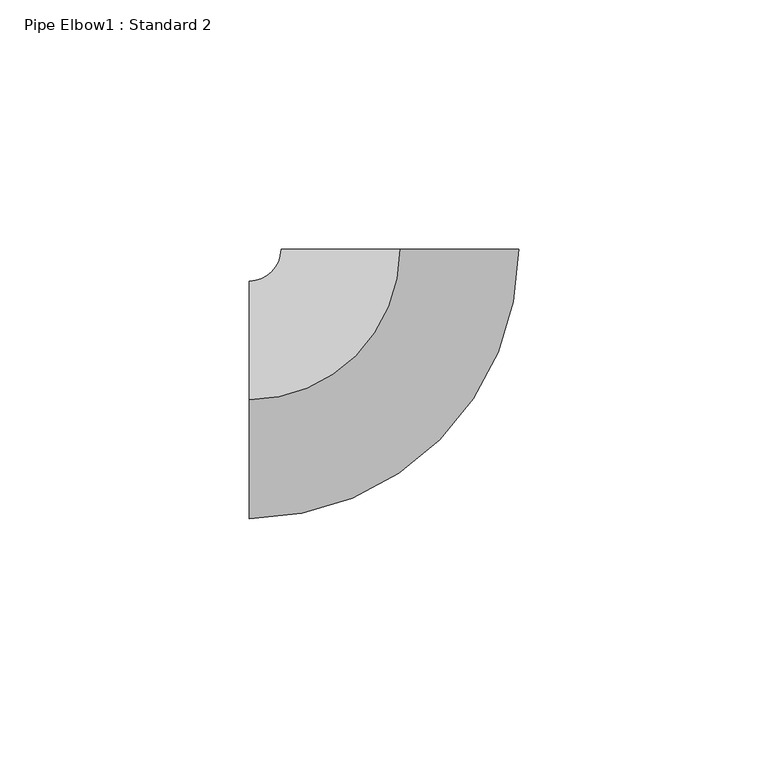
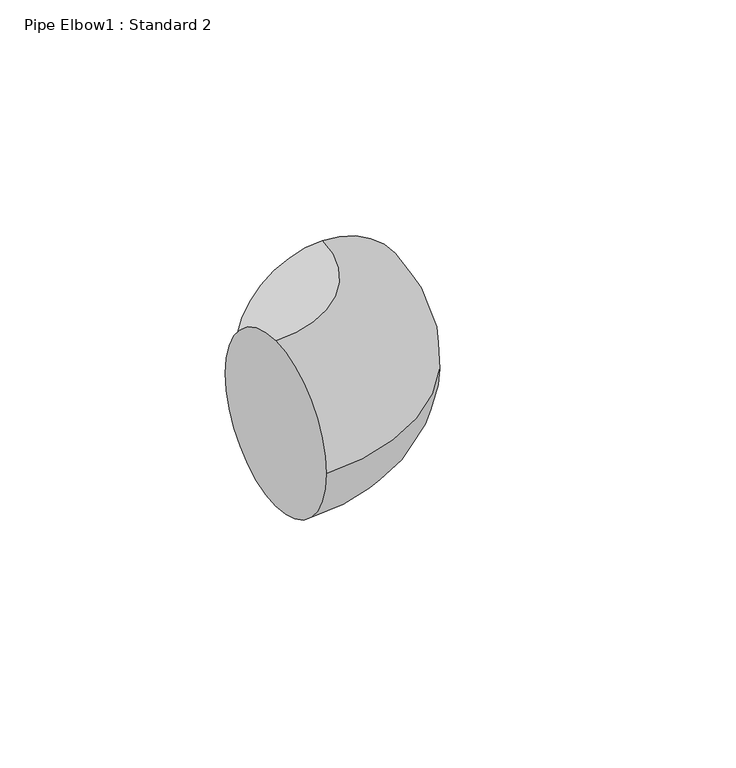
"""IFC4 building model written with IfcOpenShell, lengths in millimetres: pipe fitting geometry, Pipe Elbow1 : Standard 2."""

from ifc_helpers import new_model, si_unit, point, frame, origin, place, context, project, spatial, circle_curve, ellipse_curve, trimmed, source, transform, mapped, element, save
from ifc_brep_helpers import plane_surface, revolved_surface, advanced_brep


def pipe_elbow1_standard_2_557be1fc(model_context):
    return source(origin(), model_context, "Body", "AdvancedBrep", [
        advanced_brep(
        [(-30.1625, 0.0, 23.8125), (-30.1625, 23.8125, 0.0), (-30.1625, 0.0, -23.8125), (-30.1625, -23.8125, 0.0), (0.0, 30.1625, 23.8125), (23.8125, 30.1625, 0.0), (0.0, 30.1625, -23.8125), (-23.8125, 30.1625, 0.0)],
        [
            (0, 1, circle_curve(frame((-30.1625, 0.0, 0.0), z_axis=(-1.0, 0.0, 0.0), x_axis=(0.0, 1.0, 0.0)), 23.8125)),
            (1, 2, circle_curve(frame((-30.1625, 0.0, 0.0), z_axis=(-1.0, 0.0, 0.0), x_axis=(0.0, 1.0, 0.0)), 23.8125)),
            (2, 3, circle_curve(frame((-30.1625, 0.0, 0.0), z_axis=(-1.0, 0.0, 0.0), x_axis=(0.0, 1.0, 0.0)), 23.8125)),
            (3, 0, circle_curve(frame((-30.1625, 0.0, 0.0), z_axis=(-1.0, 0.0, 0.0), x_axis=(0.0, 1.0, 0.0)), 23.8125)),
            (4, 5, circle_curve(frame((0.0, 30.1625, 0.0), z_axis=(0.0, 1.0, 0.0), x_axis=(-1.0, 0.0, 0.0)), 23.8125)),
            (5, 6, circle_curve(frame((0.0, 30.1625, 0.0), z_axis=(0.0, 1.0, 0.0), x_axis=(-1.0, 0.0, 0.0)), 23.8125)),
            (6, 7, circle_curve(frame((0.0, 30.1625, 0.0), z_axis=(0.0, 1.0, 0.0), x_axis=(-1.0, 0.0, 0.0)), 23.8125)),
            (7, 4, circle_curve(frame((0.0, 30.1625, 0.0), z_axis=(0.0, 1.0, 0.0), x_axis=(-1.0, 0.0, 0.0)), 23.8125)),
            (7, 1, circle_curve(frame((-30.1625, 30.1625, 0.0), z_axis=(0.0, 0.0, -1.0), x_axis=(0.0, -1.0, 0.0)), 6.35)),
            (0, 4, circle_curve(frame((-30.1625, 30.1625, 23.8125), z_axis=(0.0, 0.0, 1.0), x_axis=(0.0, -1.0, 0.0)), 30.1625)),
            (6, 2, circle_curve(frame((-30.1625, 30.1625, -23.8125), z_axis=(0.0, 0.0, -1.0), x_axis=(0.0, -1.0, 0.0)), 30.1625)),
            (5, 3, circle_curve(frame((-30.1625, 30.1625, 0.0), z_axis=(0.0, 0.0, -1.0), x_axis=(0.0, -1.0, 0.0)), 53.975)),
        ],
        [
            plane_surface(frame((-30.1625, 0.0, 0.0), z_axis=(-1.0, 0.0, 0.0), x_axis=(0.0, 0.0, 1.0))),
            plane_surface(frame((0.0, 30.1625, 0.0), z_axis=(0.0, 1.0, 0.0), x_axis=(0.0, 0.0, 1.0))),
            revolved_surface(trimmed(ellipse_curve(frame((-30.1625, 0.0, 0.0), z_axis=(-1.0, 0.0, 0.0), x_axis=(0.0, 1.0, 0.0)), 23.8125, 23.8125), [point((-30.1625, 0.0, 23.8125))], [point((-30.1625, 23.8125, 0.0))], True, "CARTESIAN"), (-30.1625, 30.1625, 0.0), (0.0, 0.0, 1.0)),
            revolved_surface(trimmed(ellipse_curve(frame((-30.1625, 0.0, 0.0), z_axis=(-1.0, 0.0, 0.0), x_axis=(0.0, 1.0, 0.0)), 23.8125, 23.8125), [point((-30.1625, 23.8125, 0.0))], [point((-30.1625, 0.0, -23.8125))], True, "CARTESIAN"), (-30.1625, 30.1625, 0.0), (0.0, 0.0, 1.0)),
            revolved_surface(trimmed(ellipse_curve(frame((-30.1625, 0.0, 0.0), z_axis=(-1.0, 0.0, 0.0), x_axis=(0.0, 1.0, 0.0)), 23.8125, 23.8125), [point((-30.1625, 0.0, -23.8125))], [point((-30.1625, -23.8125, 0.0))], True, "CARTESIAN"), (-30.1625, 30.1625, 0.0), (0.0, 0.0, 1.0)),
            revolved_surface(trimmed(ellipse_curve(frame((-30.1625, 0.0, 0.0), z_axis=(-1.0, 0.0, 0.0), x_axis=(0.0, 1.0, 0.0)), 23.8125, 23.8125), [point((-30.1625, -23.8125, 0.0))], [point((-30.1625, 0.0, 23.8125))], True, "CARTESIAN"), (-30.1625, 30.1625, 0.0), (0.0, 0.0, 1.0)),
        ],
        [
            (0, [[1, 2, 3, 4]]),
            (1, [[5, 6, 7, 8]]),
            (2, [[9, -1, 10, -8]]),
            (3, [[11, -2, -9, -7]]),
            (4, [[12, -3, -11, -6]]),
            (5, [[-10, -4, -12, -5]]),
        ],
    ),
        advanced_brep(
        [(-30.1625, 0.0, 23.8125), (-30.1625, 23.8125, 0.0), (-30.1625, 0.0, -23.8125), (-30.1625, -23.8125, 0.0), (0.0, 30.1625, 23.8125), (23.8125, 30.1625, 0.0), (0.0, 30.1625, -23.8125), (-23.8125, 30.1625, 0.0)],
        [
            (0, 1, circle_curve(frame((-30.1625, 0.0, 0.0), z_axis=(-1.0, 0.0, 0.0), x_axis=(0.0, 1.0, 0.0)), 23.8125)),
            (1, 2, circle_curve(frame((-30.1625, 0.0, 0.0), z_axis=(-1.0, 0.0, 0.0), x_axis=(0.0, 1.0, 0.0)), 23.8125)),
            (2, 3, circle_curve(frame((-30.1625, 0.0, 0.0), z_axis=(-1.0, 0.0, 0.0), x_axis=(0.0, 1.0, 0.0)), 23.8125)),
            (3, 0, circle_curve(frame((-30.1625, 0.0, 0.0), z_axis=(-1.0, 0.0, 0.0), x_axis=(0.0, 1.0, 0.0)), 23.8125)),
            (4, 5, circle_curve(frame((0.0, 30.1625, 0.0), z_axis=(0.0, 1.0, 0.0), x_axis=(-1.0, 0.0, 0.0)), 23.8125)),
            (5, 6, circle_curve(frame((0.0, 30.1625, 0.0), z_axis=(0.0, 1.0, 0.0), x_axis=(-1.0, 0.0, 0.0)), 23.8125)),
            (6, 7, circle_curve(frame((0.0, 30.1625, 0.0), z_axis=(0.0, 1.0, 0.0), x_axis=(-1.0, 0.0, 0.0)), 23.8125)),
            (7, 4, circle_curve(frame((0.0, 30.1625, 0.0), z_axis=(0.0, 1.0, 0.0), x_axis=(-1.0, 0.0, 0.0)), 23.8125)),
            (7, 1, circle_curve(frame((-30.1625, 30.1625, 0.0), z_axis=(0.0, 0.0, -1.0), x_axis=(0.0, -1.0, 0.0)), 6.35)),
            (0, 4, circle_curve(frame((-30.1625, 30.1625, 23.8125), z_axis=(0.0, 0.0, 1.0), x_axis=(0.0, -1.0, 0.0)), 30.1625)),
            (6, 2, circle_curve(frame((-30.1625, 30.1625, -23.8125), z_axis=(0.0, 0.0, -1.0), x_axis=(0.0, -1.0, 0.0)), 30.1625)),
            (5, 3, circle_curve(frame((-30.1625, 30.1625, 0.0), z_axis=(0.0, 0.0, -1.0), x_axis=(0.0, -1.0, 0.0)), 53.975)),
        ],
        [
            plane_surface(frame((-30.1625, 0.0, 0.0), z_axis=(-1.0, 0.0, 0.0), x_axis=(0.0, 0.0, 1.0))),
            plane_surface(frame((0.0, 30.1625, 0.0), z_axis=(0.0, 1.0, 0.0), x_axis=(0.0, 0.0, 1.0))),
            revolved_surface(trimmed(ellipse_curve(frame((-30.1625, 0.0, 0.0), z_axis=(-1.0, 0.0, 0.0), x_axis=(0.0, 1.0, 0.0)), 23.8125, 23.8125), [point((-30.1625, 0.0, 23.8125))], [point((-30.1625, 23.8125, 0.0))], True, "CARTESIAN"), (-30.1625, 30.1625, 0.0), (0.0, 0.0, 1.0)),
            revolved_surface(trimmed(ellipse_curve(frame((-30.1625, 0.0, 0.0), z_axis=(-1.0, 0.0, 0.0), x_axis=(0.0, 1.0, 0.0)), 23.8125, 23.8125), [point((-30.1625, 23.8125, 0.0))], [point((-30.1625, 0.0, -23.8125))], True, "CARTESIAN"), (-30.1625, 30.1625, 0.0), (0.0, 0.0, 1.0)),
            revolved_surface(trimmed(ellipse_curve(frame((-30.1625, 0.0, 0.0), z_axis=(-1.0, 0.0, 0.0), x_axis=(0.0, 1.0, 0.0)), 23.8125, 23.8125), [point((-30.1625, 0.0, -23.8125))], [point((-30.1625, -23.8125, 0.0))], True, "CARTESIAN"), (-30.1625, 30.1625, 0.0), (0.0, 0.0, 1.0)),
            revolved_surface(trimmed(ellipse_curve(frame((-30.1625, 0.0, 0.0), z_axis=(-1.0, 0.0, 0.0), x_axis=(0.0, 1.0, 0.0)), 23.8125, 23.8125), [point((-30.1625, -23.8125, 0.0))], [point((-30.1625, 0.0, 23.8125))], True, "CARTESIAN"), (-30.1625, 30.1625, 0.0), (0.0, 0.0, 1.0)),
        ],
        [
            (0, [[1, 2, 3, 4]]),
            (1, [[5, 6, 7, 8]]),
            (2, [[9, -1, 10, -8]]),
            (3, [[11, -2, -9, -7]]),
            (4, [[12, -3, -11, -6]]),
            (5, [[-10, -4, -12, -5]]),
        ],
    ),
    ])


if __name__ == "__main__":
    model = new_model("IFC4")
    model_context = context("Model", 3, world=origin())
    ifc_project = project(units=[si_unit("LENGTHUNIT", "METRE", prefix="MILLI")], contexts=[model_context])
    site = spatial("IfcSite", under=ifc_project)
    building = spatial("IfcBuilding", under=site)
    placement = place(None, origin())
    pipe_elbow1_standard_2_shape = pipe_elbow1_standard_2_557be1fc(model_context)
    element("IfcPipeFitting", 1, ObjectType="Pipe Elbow1 : Standard 2", at=placement, inside=building, context=model_context, shape_type="MappedRepresentation", body=[
        mapped(pipe_elbow1_standard_2_shape, transform((0.0, 0.0, 0.0), x_axis=(1.0, 0.0, 0.0), y_axis=(0.0, 1.0, 0.0), z_axis=(0.0, 0.0, 1.0))),
    ])
    save(model, "model.ifc")
